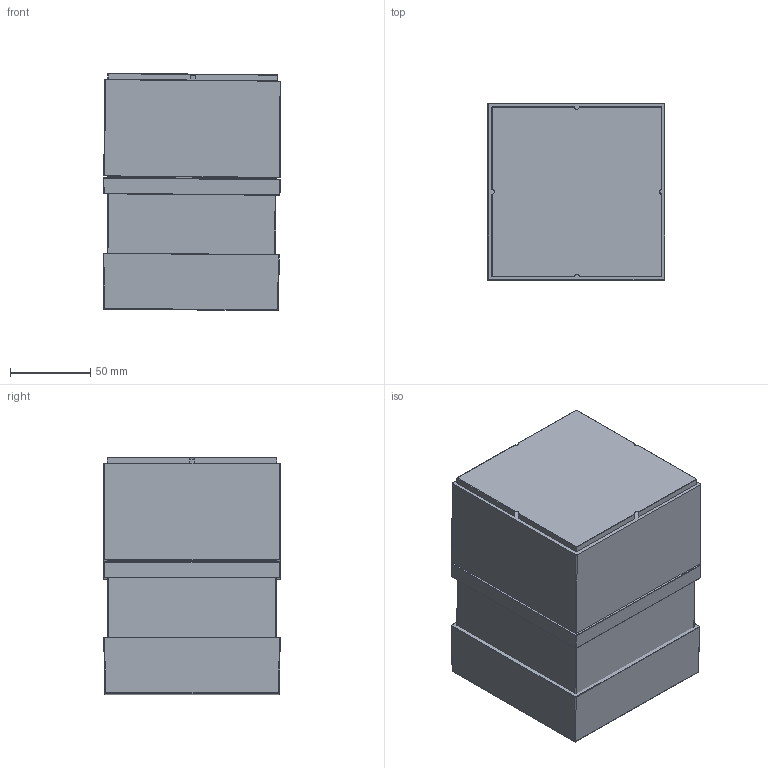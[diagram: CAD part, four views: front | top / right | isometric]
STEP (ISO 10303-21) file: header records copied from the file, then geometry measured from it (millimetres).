
FILE_DESCRIPTION((''),'2;1');
FILE_NAME('TOK_QL_H150__ASM','2025-07-30T11:52:49',('Manenti'),(''),'CREO PARAMETRIC BY PTC INC, 2025010','CREO PARAMETRIC BY PTC INC, 2025010','');
FILE_SCHEMA(('CONFIG_CONTROL_DESIGN'));
Length unit declared in the file: millimetre
Products named in the file (2): TOK-Q_ASM_1_1_2_ASM; TOK_QL_H150__ASM
Assembly tree (1 placements, depth 2):
  TOK_QL_H150__ASM
    TOK-Q_ASM_1_1_2_ASM
Bounding box: 110.97 x 110.34 x 148.11 mm (x, y, z)
Surface area: 152430.5 mm2 (no closed solid volume)
Topology: 0 solids, 19 shells, 101 faces, 275 edges, 182 vertices
Faces by surface type: cylinder 42, plane 35, sphere 12, torus 4, cone 4, bspline 4
Entity records: 3705 total; most frequent: CARTESIAN_POINT 1238, DIRECTION 525, ORIENTED_EDGE 420, EDGE_CURVE 263, AXIS2_PLACEMENT_3D 191, VERTEX_POINT 182, VECTOR 143, LINE 143
